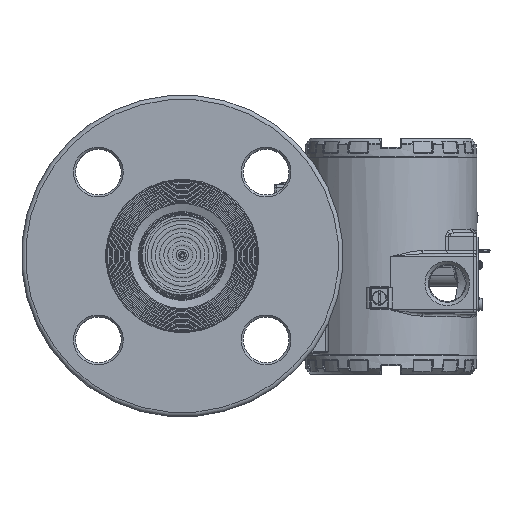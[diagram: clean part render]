
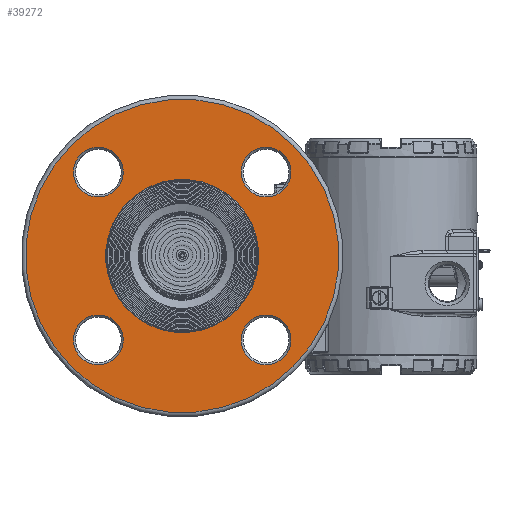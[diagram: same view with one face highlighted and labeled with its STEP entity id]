
A CAD part, top view. The second image highlights one B-rep face of the part: STEP entity #39272.
In plain terms, the highlighted planar face has unit normal (0, 0, 1).
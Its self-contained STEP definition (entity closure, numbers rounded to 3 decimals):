
#769=FACE_BOUND('',#6697,.T.);
#770=FACE_BOUND('',#6698,.T.);
#771=FACE_BOUND('',#6699,.T.);
#772=FACE_BOUND('',#6700,.T.);
#773=FACE_BOUND('',#6701,.T.);
#2786=PLANE('',#43694);
#4023=FACE_OUTER_BOUND('',#6696,.T.);
#6696=EDGE_LOOP('',(#30092));
#6697=EDGE_LOOP('',(#30093));
#6698=EDGE_LOOP('',(#30094));
#6699=EDGE_LOOP('',(#30095));
#6700=EDGE_LOOP('',(#30096));
#6701=EDGE_LOOP('',(#30097,#30098));
#12595=CIRCLE('',#43689,36.9);
#12599=CIRCLE('',#43693,36.9);
#12600=CIRCLE('',#43695,75.5);
#12601=CIRCLE('',#43696,12.);
#12602=CIRCLE('',#43697,12.);
#12603=CIRCLE('',#43698,12.);
#12604=CIRCLE('',#43699,12.);
#17157=VERTEX_POINT('',#70116);
#17158=VERTEX_POINT('',#70117);
#17161=VERTEX_POINT('',#70126);
#17162=VERTEX_POINT('',#70128);
#17163=VERTEX_POINT('',#70130);
#17164=VERTEX_POINT('',#70132);
#17165=VERTEX_POINT('',#70134);
#21709=EDGE_CURVE('',#17157,#17158,#12595,.T.);
#21713=EDGE_CURVE('',#17158,#17157,#12599,.T.);
#21714=EDGE_CURVE('',#17161,#17161,#12600,.T.);
#21715=EDGE_CURVE('',#17162,#17162,#12601,.T.);
#21716=EDGE_CURVE('',#17163,#17163,#12602,.T.);
#21717=EDGE_CURVE('',#17164,#17164,#12603,.T.);
#21718=EDGE_CURVE('',#17165,#17165,#12604,.T.);
#30092=ORIENTED_EDGE('',*,*,#21714,.F.);
#30093=ORIENTED_EDGE('',*,*,#21715,.F.);
#30094=ORIENTED_EDGE('',*,*,#21716,.F.);
#30095=ORIENTED_EDGE('',*,*,#21717,.F.);
#30096=ORIENTED_EDGE('',*,*,#21718,.F.);
#30097=ORIENTED_EDGE('',*,*,#21709,.F.);
#30098=ORIENTED_EDGE('',*,*,#21713,.F.);
#39272=ADVANCED_FACE('',(#4023,#769,#770,#771,#772,#773),#2786,.T.);
#43689=AXIS2_PLACEMENT_3D('',#70118,#51806,#51807);
#43693=AXIS2_PLACEMENT_3D('',#70124,#51814,#51815);
#43694=AXIS2_PLACEMENT_3D('',#70125,#51816,#51817);
#43695=AXIS2_PLACEMENT_3D('',#70127,#51818,#51819);
#43696=AXIS2_PLACEMENT_3D('',#70129,#51820,#51821);
#43697=AXIS2_PLACEMENT_3D('',#70131,#51822,#51823);
#43698=AXIS2_PLACEMENT_3D('',#70133,#51824,#51825);
#43699=AXIS2_PLACEMENT_3D('',#70135,#51826,#51827);
#51806=DIRECTION('center_axis',(0.,0.,1.));
#51807=DIRECTION('ref_axis',(-1.,0.,0.));
#51814=DIRECTION('center_axis',(0.,0.,1.));
#51815=DIRECTION('ref_axis',(-1.,0.,0.));
#51816=DIRECTION('center_axis',(0.,0.,1.));
#51817=DIRECTION('ref_axis',(1.,0.,0.));
#51818=DIRECTION('center_axis',(0.,0.,-1.));
#51819=DIRECTION('ref_axis',(-1.,0.,0.));
#51820=DIRECTION('center_axis',(0.,0.,1.));
#51821=DIRECTION('ref_axis',(-1.,0.,0.));
#51822=DIRECTION('center_axis',(0.,0.,1.));
#51823=DIRECTION('ref_axis',(0.,1.,0.));
#51824=DIRECTION('center_axis',(0.,0.,1.));
#51825=DIRECTION('ref_axis',(1.,0.,0.));
#51826=DIRECTION('center_axis',(0.,0.,1.));
#51827=DIRECTION('ref_axis',(0.,-1.,0.));
#70116=CARTESIAN_POINT('',(36.9,0.,19.));
#70117=CARTESIAN_POINT('',(-36.9,0.,19.));
#70118=CARTESIAN_POINT('Origin',(0.,0.,19.));
#70124=CARTESIAN_POINT('Origin',(0.,0.,19.));
#70125=CARTESIAN_POINT('Origin',(0.,0.,
19.));
#70126=CARTESIAN_POINT('',(75.5,0.,19.));
#70127=CARTESIAN_POINT('Origin',(0.,0.,19.));
#70128=CARTESIAN_POINT('',(12.,57.15,19.));
#70129=CARTESIAN_POINT('Origin',(0.,57.15,19.));
#70130=CARTESIAN_POINT('',(57.15,-12.,19.));
#70131=CARTESIAN_POINT('Origin',(57.15,0.,19.));
#70132=CARTESIAN_POINT('',(-12.,-57.15,19.));
#70133=CARTESIAN_POINT('Origin',(0.,-57.15,19.));
#70134=CARTESIAN_POINT('',(-57.15,12.,19.));
#70135=CARTESIAN_POINT('Origin',(-57.15,0.,19.));
